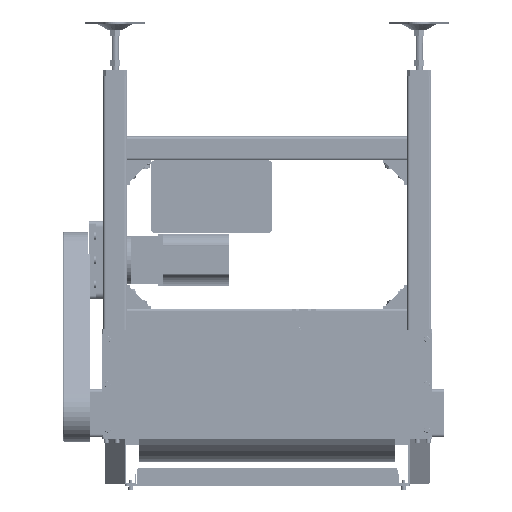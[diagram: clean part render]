
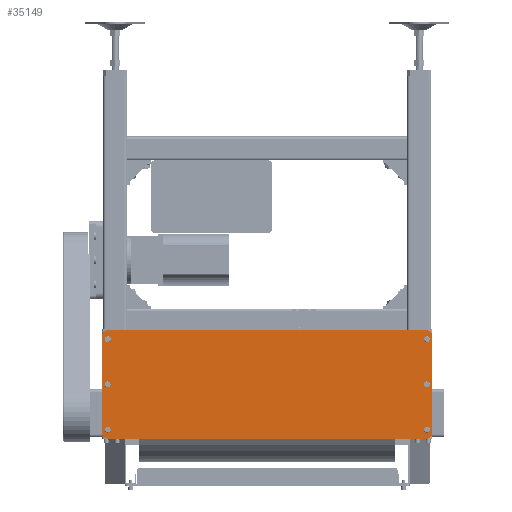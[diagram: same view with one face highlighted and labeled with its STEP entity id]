
A CAD part, left-side view. The second image highlights one B-rep face of the part: STEP entity #35149.
In plain terms, the highlighted planar face has unit normal (-1, 0, 0) as drawn and (0, 0, 1) by its records, which use the part's own axes.
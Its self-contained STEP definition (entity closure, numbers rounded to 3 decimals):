
#10307=PLANE('',#126478);
#12724=FACE_BOUND('',#48417,.T.);
#12725=FACE_BOUND('',#48418,.T.);
#12726=FACE_BOUND('',#48419,.T.);
#12727=FACE_BOUND('',#48420,.T.);
#12728=FACE_BOUND('',#48421,.T.);
#12729=FACE_BOUND('',#48422,.T.);
#12730=FACE_BOUND('',#48423,.T.);
#18866=LINE('',#178191,#26846);
#18870=LINE('',#178200,#26850);
#18876=LINE('',#178214,#26856);
#18880=LINE('',#178223,#26860);
#26846=VECTOR('',#141464,1.);
#26850=VECTOR('',#141470,1.);
#26856=VECTOR('',#141478,1.);
#26860=VECTOR('',#141484,1.);
#35149=ADVANCED_FACE('',(#12724,#12725,#12726,#12727,#12728,#12729,#12730),
#10307,.T.);
#48417=EDGE_LOOP('',(#57631,#57632));
#48418=EDGE_LOOP('',(#57633,#57634));
#48419=EDGE_LOOP('',(#57635,#57636));
#48420=EDGE_LOOP('',(#57637,#57638));
#48421=EDGE_LOOP('',(#57639,#57640));
#48422=EDGE_LOOP('',(#57641,#57642));
#48423=EDGE_LOOP('',(#57643,#57644,#57645,#57646,#57647,#57648,#57649,#57650));
#57631=ORIENTED_EDGE('',*,*,#102345,.F.);
#57632=ORIENTED_EDGE('',*,*,#102297,.F.);
#57633=ORIENTED_EDGE('',*,*,#102346,.F.);
#57634=ORIENTED_EDGE('',*,*,#102301,.F.);
#57635=ORIENTED_EDGE('',*,*,#102347,.F.);
#57636=ORIENTED_EDGE('',*,*,#102305,.F.);
#57637=ORIENTED_EDGE('',*,*,#102348,.F.);
#57638=ORIENTED_EDGE('',*,*,#102309,.F.);
#57639=ORIENTED_EDGE('',*,*,#102349,.F.);
#57640=ORIENTED_EDGE('',*,*,#102313,.F.);
#57641=ORIENTED_EDGE('',*,*,#102350,.F.);
#57642=ORIENTED_EDGE('',*,*,#102317,.F.);
#57643=ORIENTED_EDGE('',*,*,#102329,.T.);
#57644=ORIENTED_EDGE('',*,*,#102351,.T.);
#57645=ORIENTED_EDGE('',*,*,#102323,.T.);
#57646=ORIENTED_EDGE('',*,*,#102352,.T.);
#57647=ORIENTED_EDGE('',*,*,#102319,.T.);
#57648=ORIENTED_EDGE('',*,*,#102353,.T.);
#57649=ORIENTED_EDGE('',*,*,#102333,.T.);
#57650=ORIENTED_EDGE('',*,*,#102354,.T.);
#90975=VERTEX_POINT('',#178141);
#90976=VERTEX_POINT('',#178143);
#90979=VERTEX_POINT('',#178150);
#90980=VERTEX_POINT('',#178152);
#90983=VERTEX_POINT('',#178159);
#90984=VERTEX_POINT('',#178161);
#90987=VERTEX_POINT('',#178168);
#90988=VERTEX_POINT('',#178170);
#90991=VERTEX_POINT('',#178177);
#90992=VERTEX_POINT('',#178179);
#90995=VERTEX_POINT('',#178186);
#90996=VERTEX_POINT('',#178188);
#90997=VERTEX_POINT('',#178192);
#90998=VERTEX_POINT('',#178193);
#91001=VERTEX_POINT('',#178201);
#91002=VERTEX_POINT('',#178202);
#91007=VERTEX_POINT('',#178213);
#91008=VERTEX_POINT('',#178215);
#91011=VERTEX_POINT('',#178222);
#91012=VERTEX_POINT('',#178224);
#102297=EDGE_CURVE('',#90975,#90976,#119061,.T.);
#102301=EDGE_CURVE('',#90979,#90980,#119063,.T.);
#102305=EDGE_CURVE('',#90983,#90984,#119065,.T.);
#102309=EDGE_CURVE('',#90987,#90988,#119067,.T.);
#102313=EDGE_CURVE('',#90991,#90992,#119069,.T.);
#102317=EDGE_CURVE('',#90995,#90996,#119071,.T.);
#102319=EDGE_CURVE('',#90997,#90998,#18866,.T.);
#102323=EDGE_CURVE('',#91001,#91002,#18870,.T.);
#102329=EDGE_CURVE('',#91008,#91007,#18876,.T.);
#102333=EDGE_CURVE('',#91012,#91011,#18880,.T.);
#102345=EDGE_CURVE('',#90976,#90975,#119082,.T.);
#102346=EDGE_CURVE('',#90980,#90979,#119083,.T.);
#102347=EDGE_CURVE('',#90984,#90983,#119084,.T.);
#102348=EDGE_CURVE('',#90988,#90987,#119085,.T.);
#102349=EDGE_CURVE('',#90992,#90991,#119086,.T.);
#102350=EDGE_CURVE('',#90996,#90995,#119087,.T.);
#102351=EDGE_CURVE('',#91007,#91001,#119088,.T.);
#102352=EDGE_CURVE('',#91002,#90997,#119089,.T.);
#102353=EDGE_CURVE('',#90998,#91012,#119090,.T.);
#102354=EDGE_CURVE('',#91011,#91008,#119091,.T.);
#119061=CIRCLE('',#126436,2.75);
#119063=CIRCLE('',#126439,2.75);
#119065=CIRCLE('',#126442,2.75);
#119067=CIRCLE('',#126445,2.75);
#119069=CIRCLE('',#126448,2.75);
#119071=CIRCLE('',#126451,2.75);
#119082=CIRCLE('',#126468,2.75);
#119083=CIRCLE('',#126469,2.75);
#119084=CIRCLE('',#126470,2.75);
#119085=CIRCLE('',#126471,2.75);
#119086=CIRCLE('',#126472,2.75);
#119087=CIRCLE('',#126473,2.75);
#119088=CIRCLE('',#126474,10.);
#119089=CIRCLE('',#126475,10.);
#119090=CIRCLE('',#126476,10.);
#119091=CIRCLE('',#126477,10.);
#126436=AXIS2_PLACEMENT_3D('',#178142,#141419,#141420);
#126439=AXIS2_PLACEMENT_3D('',#178151,#141427,#141428);
#126442=AXIS2_PLACEMENT_3D('',#178160,#141435,#141436);
#126445=AXIS2_PLACEMENT_3D('',#178169,#141443,#141444);
#126448=AXIS2_PLACEMENT_3D('',#178178,#141451,#141452);
#126451=AXIS2_PLACEMENT_3D('',#178187,#141459,#141460);
#126468=AXIS2_PLACEMENT_3D('',#178238,#141510,#141511);
#126469=AXIS2_PLACEMENT_3D('',#178239,#141512,#141513);
#126470=AXIS2_PLACEMENT_3D('',#178240,#141514,#141515);
#126471=AXIS2_PLACEMENT_3D('',#178241,#141516,#141517);
#126472=AXIS2_PLACEMENT_3D('',#178242,#141518,#141519);
#126473=AXIS2_PLACEMENT_3D('',#178243,#141520,#141521);
#126474=AXIS2_PLACEMENT_3D('',#178244,#141522,#141523);
#126475=AXIS2_PLACEMENT_3D('',#178245,#141524,#141525);
#126476=AXIS2_PLACEMENT_3D('',#178246,#141526,#141527);
#126477=AXIS2_PLACEMENT_3D('',#178247,#141528,#141529);
#126478=AXIS2_PLACEMENT_3D('',#178248,#141530,#141531);
#141419=DIRECTION('',(0.,0.,1.));
#141420=DIRECTION('',(1.,0.,0.));
#141427=DIRECTION('',(0.,0.,1.));
#141428=DIRECTION('',(1.,0.,0.));
#141435=DIRECTION('',(0.,0.,1.));
#141436=DIRECTION('',(1.,0.,0.));
#141443=DIRECTION('',(0.,0.,1.));
#141444=DIRECTION('',(1.,0.,0.));
#141451=DIRECTION('',(0.,0.,1.));
#141452=DIRECTION('',(1.,0.,0.));
#141459=DIRECTION('',(0.,0.,1.));
#141460=DIRECTION('',(1.,0.,0.));
#141464=DIRECTION('',(0.,1.,0.));
#141470=DIRECTION('',(1.,0.,0.));
#141478=DIRECTION('',(0.,-1.,0.));
#141484=DIRECTION('',(-1.,0.,0.));
#141510=DIRECTION('',(0.,0.,1.));
#141511=DIRECTION('',(1.,0.,0.));
#141512=DIRECTION('',(0.,0.,1.));
#141513=DIRECTION('',(1.,0.,0.));
#141514=DIRECTION('',(0.,0.,1.));
#141515=DIRECTION('',(1.,0.,0.));
#141516=DIRECTION('',(0.,0.,1.));
#141517=DIRECTION('',(1.,0.,0.));
#141518=DIRECTION('',(0.,0.,1.));
#141519=DIRECTION('',(1.,0.,0.));
#141520=DIRECTION('',(0.,0.,1.));
#141521=DIRECTION('',(1.,0.,0.));
#141522=DIRECTION('',(0.,0.,1.));
#141523=DIRECTION('',(1.,0.,0.));
#141524=DIRECTION('',(0.,0.,1.));
#141525=DIRECTION('',(1.,0.,0.));
#141526=DIRECTION('',(0.,0.,1.));
#141527=DIRECTION('',(1.,0.,0.));
#141528=DIRECTION('',(0.,0.,1.));
#141529=DIRECTION('',(1.,0.,0.));
#141530=DIRECTION('',(0.,0.,1.));
#141531=DIRECTION('',(-1.,0.,0.));
#178141=CARTESIAN_POINT('',(262.25,75.,0.));
#178142=CARTESIAN_POINT('',(265.,75.,0.));
#178143=CARTESIAN_POINT('',(267.75,75.,0.));
#178150=CARTESIAN_POINT('',(262.25,0.,0.));
#178151=CARTESIAN_POINT('',(265.,0.,0.));
#178152=CARTESIAN_POINT('',(267.75,0.,0.));
#178159=CARTESIAN_POINT('',(262.25,-75.,0.));
#178160=CARTESIAN_POINT('',(265.,-75.,0.));
#178161=CARTESIAN_POINT('',(267.75,-75.,0.));
#178168=CARTESIAN_POINT('',(-267.75,0.,0.));
#178169=CARTESIAN_POINT('',(-265.,0.,0.));
#178170=CARTESIAN_POINT('',(-262.25,0.,0.));
#178177=CARTESIAN_POINT('',(-267.75,-75.,0.));
#178178=CARTESIAN_POINT('',(-265.,-75.,0.));
#178179=CARTESIAN_POINT('',(-262.25,-75.,0.));
#178186=CARTESIAN_POINT('',(-267.75,75.,0.));
#178187=CARTESIAN_POINT('',(-265.,75.,0.));
#178188=CARTESIAN_POINT('',(-262.25,75.,0.));
#178191=CARTESIAN_POINT('',(274.5,90.,0.));
#178192=CARTESIAN_POINT('',(274.5,-80.,0.));
#178193=CARTESIAN_POINT('',(274.5,80.,0.));
#178200=CARTESIAN_POINT('',(-274.5,-90.,0.));
#178201=CARTESIAN_POINT('',(-264.5,-90.,0.));
#178202=CARTESIAN_POINT('',(264.5,-90.,0.));
#178213=CARTESIAN_POINT('',(-274.5,-80.,0.));
#178214=CARTESIAN_POINT('',(-274.5,90.,0.));
#178215=CARTESIAN_POINT('',(-274.5,80.,0.));
#178222=CARTESIAN_POINT('',(-264.5,90.,0.));
#178223=CARTESIAN_POINT('',(-274.5,90.,0.));
#178224=CARTESIAN_POINT('',(264.5,90.,0.));
#178238=CARTESIAN_POINT('',(265.,75.,0.));
#178239=CARTESIAN_POINT('',(265.,0.,0.));
#178240=CARTESIAN_POINT('',(265.,-75.,0.));
#178241=CARTESIAN_POINT('',(-265.,0.,0.));
#178242=CARTESIAN_POINT('',(-265.,-75.,0.));
#178243=CARTESIAN_POINT('',(-265.,75.,0.));
#178244=CARTESIAN_POINT('',(-264.5,-80.,0.));
#178245=CARTESIAN_POINT('',(264.5,-80.,0.));
#178246=CARTESIAN_POINT('',(264.5,80.,0.));
#178247=CARTESIAN_POINT('',(-264.5,80.,0.));
#178248=CARTESIAN_POINT('',(0.,0.,0.));
